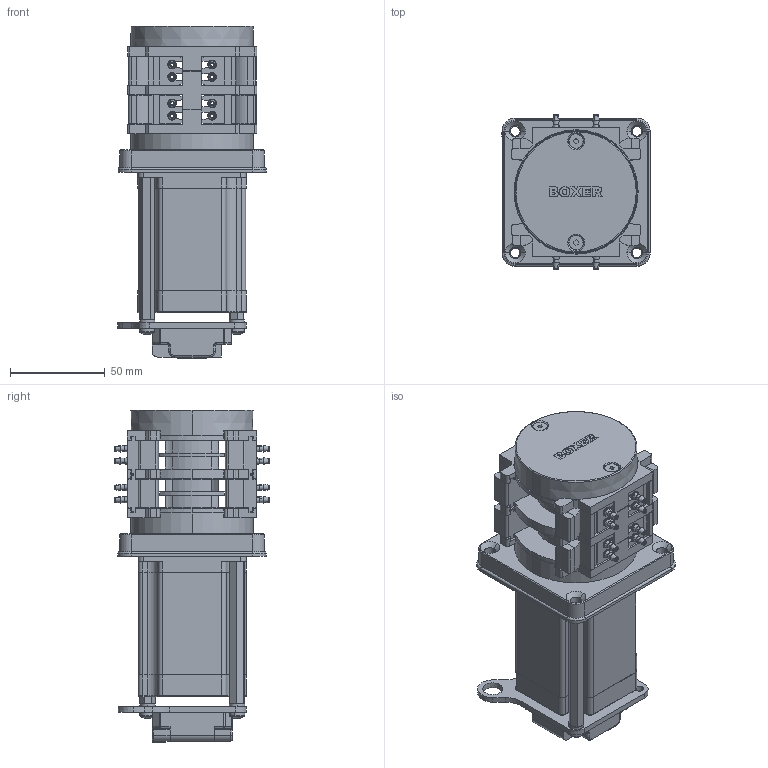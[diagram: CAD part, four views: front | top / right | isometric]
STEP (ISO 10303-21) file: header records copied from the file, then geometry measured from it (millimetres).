
FILE_DESCRIPTION (( 'STEP AP203' ), '1' );
FILE_NAME ('6342.101-1mm.STEP', '2018-11-17T19:28:44', ( '' ), ( '' ), 'SwSTEP 2.0', 'SolidWorks 2015', '' );
FILE_SCHEMA (( 'CONFIG_CONTROL_DESIGN' ));
Length unit declared in the file: millimetre
Products named in the file (1): 6342.101-1mm
Bounding box: 78.11 x 81.95 x 174.75 mm (x, y, z)
Surface area: 94860.6 mm2 (no closed solid volume)
Topology: 0 solids, 80 shells, 1147 faces, 3898 edges, 2750 vertices
Faces by surface type: plane 529, cylinder 414, cone 135, torus 37, bspline 20, sphere 12
Entity records: 43581 total; most frequent: CARTESIAN_POINT 9259, DIRECTION 7503, ORIENTED_EDGE 6276, EDGE_CURVE 3894, VERTEX_POINT 2750, AXIS2_PLACEMENT_3D 2564, LINE 2375, VECTOR 2375
